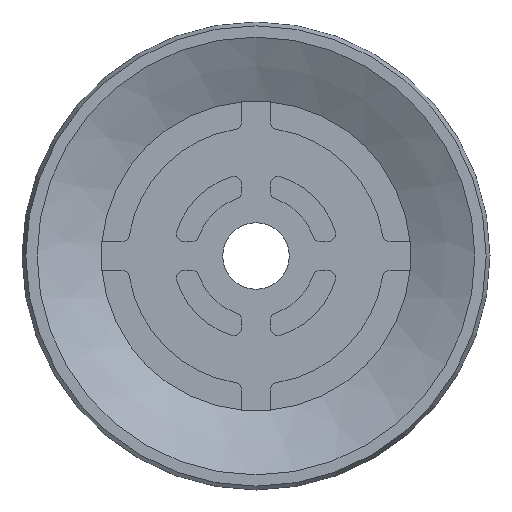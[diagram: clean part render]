
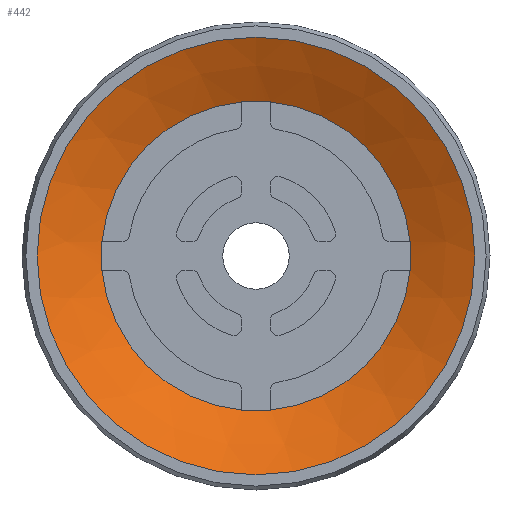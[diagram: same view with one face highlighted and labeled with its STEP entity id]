
A CAD part, front view. The second image highlights one B-rep face of the part: STEP entity #442.
In plain terms, the highlighted conical face has half-angle 63.535 degrees and reference radius 29.984 mm.
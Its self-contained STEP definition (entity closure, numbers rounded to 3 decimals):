
#24 = AXIS2_PLACEMENT_3D ( 'NONE', #468, #2083, #868 ) ;
#38 = DIRECTION ( 'NONE',  ( 0., 0., 1. ) ) ;
#40 = DIRECTION ( 'NONE',  ( 0., 0., 1. ) ) ;
#76 = EDGE_CURVE ( 'NONE', #1716, #1863, #2193, .T. ) ;
#116 = CARTESIAN_POINT ( 'NONE',  ( 0., 5.75, 0. ) ) ;
#117 = AXIS2_PLACEMENT_3D ( 'NONE', #2441, #2008, #622 ) ;
#132 = VERTEX_POINT ( 'NONE', #530 ) ;
#138 = EDGE_CURVE ( 'NONE', #2521, #2357, #1379, .T. ) ;
#162 = DIRECTION ( 'NONE',  ( 0., 1., 0. ) ) ;
#167 = CARTESIAN_POINT ( 'NONE',  ( 0., 5.75, 0. ) ) ;
#183 = CIRCLE ( 'NONE', #24, 20.5 ) ;
#274 = FACE_BOUND ( 'NONE', #700, .T. ) ;
#289 = AXIS2_PLACEMENT_3D ( 'NONE', #167, #1148, #570 ) ;
#305 = CARTESIAN_POINT ( 'NONE',  ( 0., 5.75, 20.5 ) ) ;
#425 = CARTESIAN_POINT ( 'NONE',  ( 20.5, 5.75, 0. ) ) ;
#442 = ADVANCED_FACE ( 'NONE', ( #274, #851 ), #1870, .F. ) ;
#443 = CARTESIAN_POINT ( 'NONE',  ( 0., 5.75, 0. ) ) ;
#468 = CARTESIAN_POINT ( 'NONE',  ( 0., 5.75, 0. ) ) ;
#470 = CARTESIAN_POINT ( 'NONE',  ( 0., 5.75, 0. ) ) ;
#476 = DIRECTION ( 'NONE',  ( 0., 0., 1. ) ) ;
#483 = ORIENTED_EDGE ( 'NONE', *, *, #2347, .T. ) ;
#501 = ORIENTED_EDGE ( 'NONE', *, *, #76, .T. ) ;
#502 = VERTEX_POINT ( 'NONE', #1998 ) ;
#530 = CARTESIAN_POINT ( 'NONE',  ( -20.409, 5.75, 1.925 ) ) ;
#547 = VERTEX_POINT ( 'NONE', #684 ) ;
#557 = DIRECTION ( 'NONE',  ( 0., 0., 1. ) ) ;
#569 = ORIENTED_EDGE ( 'NONE', *, *, #646, .T. ) ;
#570 = DIRECTION ( 'NONE',  ( 0., 0., 1. ) ) ;
#572 = ORIENTED_EDGE ( 'NONE', *, *, #583, .T. ) ;
#583 = EDGE_CURVE ( 'NONE', #2359, #1521, #1130, .T. ) ;
#589 = CARTESIAN_POINT ( 'NONE',  ( 0., 1.029, 0. ) ) ;
#622 = DIRECTION ( 'NONE',  ( 0., 0., 1. ) ) ;
#625 = DIRECTION ( 'NONE',  ( 0., -1., 0. ) ) ;
#646 = EDGE_CURVE ( 'NONE', #547, #1716, #1152, .T. ) ;
#683 = ORIENTED_EDGE ( 'NONE', *, *, #1330, .T. ) ;
#684 = CARTESIAN_POINT ( 'NONE',  ( -1.925, 5.75, 20.409 ) ) ;
#700 = EDGE_LOOP ( 'NONE', ( #501, #483, #2385, #572, #1079, #2261, #1238, #1629, #1429, #683, #1769, #569 ) ) ;
#718 = CIRCLE ( 'NONE', #117, 20.5 ) ;
#754 = DIRECTION ( 'NONE',  ( 0., 0., 1. ) ) ;
#778 = EDGE_CURVE ( 'NONE', #502, #502, #2554, .T. ) ;
#796 = VERTEX_POINT ( 'NONE', #2207 ) ;
#843 = DIRECTION ( 'NONE',  ( 0., 1., 0. ) ) ;
#851 = FACE_OUTER_BOUND ( 'NONE', #1665, .T. ) ;
#868 = DIRECTION ( 'NONE',  ( 0., 0., 1. ) ) ;
#910 = CARTESIAN_POINT ( 'NONE',  ( 20.409, 5.75, 1.925 ) ) ;
#916 = CIRCLE ( 'NONE', #1776, 20.5 ) ;
#928 = CARTESIAN_POINT ( 'NONE',  ( -1.925, 5.75, -20.409 ) ) ;
#934 = EDGE_CURVE ( 'NONE', #2357, #2415, #718, .T. ) ;
#939 = CARTESIAN_POINT ( 'NONE',  ( 0., 5.75, 0. ) ) ;
#956 = DIRECTION ( 'NONE',  ( 0., 1., 0. ) ) ;
#1003 = AXIS2_PLACEMENT_3D ( 'NONE', #1560, #162, #754 ) ;
#1061 = EDGE_CURVE ( 'NONE', #2303, #796, #2169, .T. ) ;
#1079 = ORIENTED_EDGE ( 'NONE', *, *, #1729, .T. ) ;
#1084 = CARTESIAN_POINT ( 'NONE',  ( -20.5, 5.75, 0. ) ) ;
#1119 = CIRCLE ( 'NONE', #289, 20.5 ) ;
#1130 = CIRCLE ( 'NONE', #2166, 20.5 ) ;
#1136 = CARTESIAN_POINT ( 'NONE',  ( 0., 5.75, 0. ) ) ;
#1148 = DIRECTION ( 'NONE',  ( 0., 1., 0. ) ) ;
#1152 = CIRCLE ( 'NONE', #1881, 20.5 ) ;
#1238 = ORIENTED_EDGE ( 'NONE', *, *, #2637, .T. ) ;
#1245 = DIRECTION ( 'NONE',  ( 0., 1., 0. ) ) ;
#1282 = ORIENTED_EDGE ( 'NONE', *, *, #778, .F. ) ;
#1330 = EDGE_CURVE ( 'NONE', #2415, #132, #916, .T. ) ;
#1331 = DIRECTION ( 'NONE',  ( 0., 0., 1. ) ) ;
#1370 = AXIS2_PLACEMENT_3D ( 'NONE', #589, #625, #1452 ) ;
#1378 = CIRCLE ( 'NONE', #1524, 20.5 ) ;
#1379 = CIRCLE ( 'NONE', #2204, 20.5 ) ;
#1391 = DIRECTION ( 'NONE',  ( 0., 0., 1. ) ) ;
#1401 = DIRECTION ( 'NONE',  ( 0., 1., 0. ) ) ;
#1419 = CARTESIAN_POINT ( 'NONE',  ( 0., 5.75, 0. ) ) ;
#1429 = ORIENTED_EDGE ( 'NONE', *, *, #934, .T. ) ;
#1452 = DIRECTION ( 'NONE',  ( 0., 0., -1. ) ) ;
#1521 = VERTEX_POINT ( 'NONE', #2493 ) ;
#1524 = AXIS2_PLACEMENT_3D ( 'NONE', #2052, #843, #2264 ) ;
#1537 = EDGE_CURVE ( 'NONE', #132, #547, #183, .T. ) ;
#1555 = CIRCLE ( 'NONE', #1971, 20.5 ) ;
#1560 = CARTESIAN_POINT ( 'NONE',  ( 0., 1.029, 0. ) ) ;
#1626 = CARTESIAN_POINT ( 'NONE',  ( -20.409, 5.75, -1.925 ) ) ;
#1629 = ORIENTED_EDGE ( 'NONE', *, *, #138, .T. ) ;
#1665 = EDGE_LOOP ( 'NONE', ( #1282 ) ) ;
#1685 = CARTESIAN_POINT ( 'NONE',  ( 0., 5.75, 0. ) ) ;
#1716 = VERTEX_POINT ( 'NONE', #305 ) ;
#1729 = EDGE_CURVE ( 'NONE', #1521, #2303, #1555, .T. ) ;
#1769 = ORIENTED_EDGE ( 'NONE', *, *, #1537, .T. ) ;
#1776 = AXIS2_PLACEMENT_3D ( 'NONE', #2592, #2203, #557 ) ;
#1828 = DIRECTION ( 'NONE',  ( 0., 1., 0. ) ) ;
#1863 = VERTEX_POINT ( 'NONE', #2387 ) ;
#1870 = CONICAL_SURFACE ( 'NONE', #1370, 29.984, 1.109 ) ;
#1873 = EDGE_CURVE ( 'NONE', #2583, #2359, #1119, .T. ) ;
#1881 = AXIS2_PLACEMENT_3D ( 'NONE', #116, #956, #1331 ) ;
#1886 = DIRECTION ( 'NONE',  ( 0., 1., 0. ) ) ;
#1902 = CIRCLE ( 'NONE', #2401, 20.5 ) ;
#1971 = AXIS2_PLACEMENT_3D ( 'NONE', #1136, #2566, #2147 ) ;
#1975 = AXIS2_PLACEMENT_3D ( 'NONE', #443, #1245, #38 ) ;
#1998 = CARTESIAN_POINT ( 'NONE',  ( 0., 1.029, 29.984 ) ) ;
#2008 = DIRECTION ( 'NONE',  ( 0., 1., 0. ) ) ;
#2052 = CARTESIAN_POINT ( 'NONE',  ( 0., 5.75, 0. ) ) ;
#2083 = DIRECTION ( 'NONE',  ( 0., 1., 0. ) ) ;
#2147 = DIRECTION ( 'NONE',  ( 0., 0., 1. ) ) ;
#2166 = AXIS2_PLACEMENT_3D ( 'NONE', #1685, #2499, #2509 ) ;
#2169 = CIRCLE ( 'NONE', #2379, 20.5 ) ;
#2193 = CIRCLE ( 'NONE', #1975, 20.5 ) ;
#2203 = DIRECTION ( 'NONE',  ( 0., 1., 0. ) ) ;
#2204 = AXIS2_PLACEMENT_3D ( 'NONE', #1419, #1401, #40 ) ;
#2207 = CARTESIAN_POINT ( 'NONE',  ( 0., 5.75, -20.5 ) ) ;
#2261 = ORIENTED_EDGE ( 'NONE', *, *, #1061, .T. ) ;
#2264 = DIRECTION ( 'NONE',  ( 0., 0., 1. ) ) ;
#2303 = VERTEX_POINT ( 'NONE', #2458 ) ;
#2347 = EDGE_CURVE ( 'NONE', #1863, #2583, #1378, .T. ) ;
#2357 = VERTEX_POINT ( 'NONE', #1626 ) ;
#2359 = VERTEX_POINT ( 'NONE', #425 ) ;
#2379 = AXIS2_PLACEMENT_3D ( 'NONE', #470, #1886, #476 ) ;
#2385 = ORIENTED_EDGE ( 'NONE', *, *, #1873, .T. ) ;
#2387 = CARTESIAN_POINT ( 'NONE',  ( 1.925, 5.75, 20.409 ) ) ;
#2401 = AXIS2_PLACEMENT_3D ( 'NONE', #939, #1828, #1391 ) ;
#2415 = VERTEX_POINT ( 'NONE', #1084 ) ;
#2441 = CARTESIAN_POINT ( 'NONE',  ( 0., 5.75, 0. ) ) ;
#2458 = CARTESIAN_POINT ( 'NONE',  ( 1.925, 5.75, -20.409 ) ) ;
#2493 = CARTESIAN_POINT ( 'NONE',  ( 20.409, 5.75, -1.925 ) ) ;
#2499 = DIRECTION ( 'NONE',  ( 0., 1., 0. ) ) ;
#2509 = DIRECTION ( 'NONE',  ( 0., 0., 1. ) ) ;
#2521 = VERTEX_POINT ( 'NONE', #928 ) ;
#2554 = CIRCLE ( 'NONE', #1003, 29.984 ) ;
#2566 = DIRECTION ( 'NONE',  ( 0., 1., 0. ) ) ;
#2583 = VERTEX_POINT ( 'NONE', #910 ) ;
#2592 = CARTESIAN_POINT ( 'NONE',  ( 0., 5.75, 0. ) ) ;
#2637 = EDGE_CURVE ( 'NONE', #796, #2521, #1902, .T. ) ;
